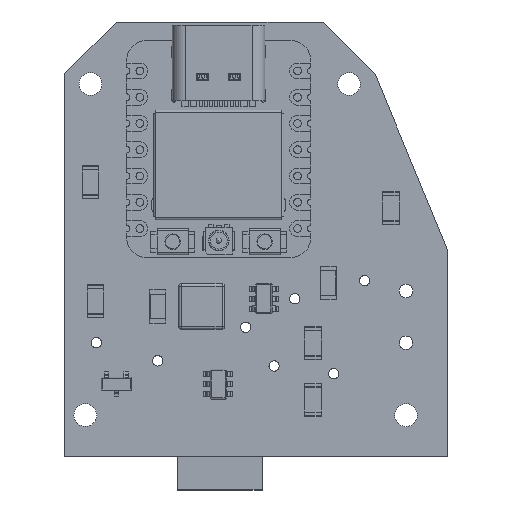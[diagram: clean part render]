
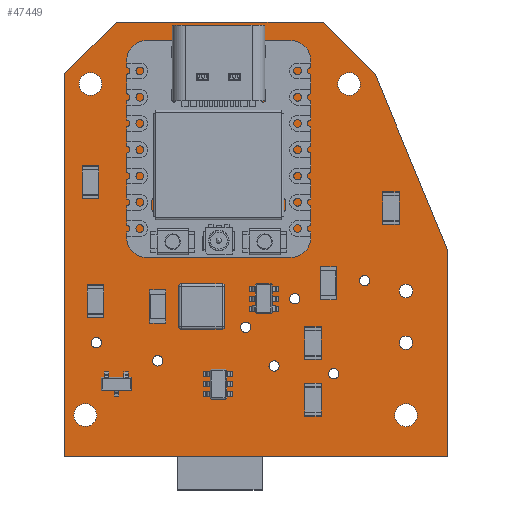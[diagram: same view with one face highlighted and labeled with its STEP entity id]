
A CAD part, top view. The second image highlights one B-rep face of the part: STEP entity #47449.
In plain terms, the highlighted planar face has unit normal (0, 0, 1).
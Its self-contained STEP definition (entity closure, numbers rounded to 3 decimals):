
#47148 = VERTEX_POINT('',#47149);
#47149 = CARTESIAN_POINT('',(11.5,16.,1.51));
#47155 = EDGE_CURVE('',#47148,#47156,#47158,.T.);
#47156 = VERTEX_POINT('',#47157);
#47157 = CARTESIAN_POINT('',(18.5,-1.,1.51));
#47158 = LINE('',#47159,#47160);
#47159 = CARTESIAN_POINT('',(11.5,16.,1.51));
#47160 = VECTOR('',#47161,1.);
#47161 = DIRECTION('',(0.381,-0.925,0.));
#47188 = VERTEX_POINT('',#47189);
#47189 = CARTESIAN_POINT('',(6.5,21.,1.51));
#47195 = EDGE_CURVE('',#47188,#47148,#47196,.T.);
#47196 = LINE('',#47197,#47198);
#47197 = CARTESIAN_POINT('',(6.5,21.,1.51));
#47198 = VECTOR('',#47199,1.);
#47199 = DIRECTION('',(0.707,-0.707,0.));
#47217 = EDGE_CURVE('',#47156,#47218,#47220,.T.);
#47218 = VERTEX_POINT('',#47219);
#47219 = CARTESIAN_POINT('',(18.5,-21.,1.51));
#47220 = LINE('',#47221,#47222);
#47221 = CARTESIAN_POINT('',(18.5,-1.,1.51));
#47222 = VECTOR('',#47223,1.);
#47223 = DIRECTION('',(0.,-1.,0.));
#47449 = ADVANCED_FACE('',(#47450,#47485,#47496,#47507,#47518,#47529,
    #47540,#47551,#47562,#47573,#47584,#47595,#47606,#47617,#47628,
    #47639),#47650,.T.);
#47450 = FACE_BOUND('',#47451,.T.);
#47451 = EDGE_LOOP('',(#47452,#47453,#47454,#47462,#47470,#47478,#47484)
  );
#47452 = ORIENTED_EDGE('',*,*,#47155,.F.);
#47453 = ORIENTED_EDGE('',*,*,#47195,.F.);
#47454 = ORIENTED_EDGE('',*,*,#47455,.F.);
#47455 = EDGE_CURVE('',#47456,#47188,#47458,.T.);
#47456 = VERTEX_POINT('',#47457);
#47457 = CARTESIAN_POINT('',(-13.5,21.,1.51));
#47458 = LINE('',#47459,#47460);
#47459 = CARTESIAN_POINT('',(-13.5,21.,1.51));
#47460 = VECTOR('',#47461,1.);
#47461 = DIRECTION('',(1.,0.,0.));
#47462 = ORIENTED_EDGE('',*,*,#47463,.F.);
#47463 = EDGE_CURVE('',#47464,#47456,#47466,.T.);
#47464 = VERTEX_POINT('',#47465);
#47465 = CARTESIAN_POINT('',(-18.5,16.,1.51));
#47466 = LINE('',#47467,#47468);
#47467 = CARTESIAN_POINT('',(-18.5,16.,1.51));
#47468 = VECTOR('',#47469,1.);
#47469 = DIRECTION('',(0.707,0.707,0.));
#47470 = ORIENTED_EDGE('',*,*,#47471,.F.);
#47471 = EDGE_CURVE('',#47472,#47464,#47474,.T.);
#47472 = VERTEX_POINT('',#47473);
#47473 = CARTESIAN_POINT('',(-18.5,-21.,1.51));
#47474 = LINE('',#47475,#47476);
#47475 = CARTESIAN_POINT('',(-18.5,-21.,1.51));
#47476 = VECTOR('',#47477,1.);
#47477 = DIRECTION('',(0.,1.,0.));
#47478 = ORIENTED_EDGE('',*,*,#47479,.F.);
#47479 = EDGE_CURVE('',#47218,#47472,#47480,.T.);
#47480 = LINE('',#47481,#47482);
#47481 = CARTESIAN_POINT('',(18.5,-21.,1.51));
#47482 = VECTOR('',#47483,1.);
#47483 = DIRECTION('',(-1.,0.,0.));
#47484 = ORIENTED_EDGE('',*,*,#47217,.F.);
#47485 = FACE_BOUND('',#47486,.T.);
#47486 = EDGE_LOOP('',(#47487));
#47487 = ORIENTED_EDGE('',*,*,#47488,.T.);
#47488 = EDGE_CURVE('',#47489,#47489,#47491,.T.);
#47489 = VERTEX_POINT('',#47490);
#47490 = CARTESIAN_POINT('',(-16.5,-18.1,1.51));
#47491 = CIRCLE('',#47492,1.1);
#47492 = AXIS2_PLACEMENT_3D('',#47493,#47494,#47495);
#47493 = CARTESIAN_POINT('',(-16.5,-17.,1.51));
#47494 = DIRECTION('',(-0.,0.,-1.));
#47495 = DIRECTION('',(-0.,-1.,0.));
#47496 = FACE_BOUND('',#47497,.T.);
#47497 = EDGE_LOOP('',(#47498));
#47498 = ORIENTED_EDGE('',*,*,#47499,.T.);
#47499 = EDGE_CURVE('',#47500,#47500,#47502,.T.);
#47500 = VERTEX_POINT('',#47501);
#47501 = CARTESIAN_POINT('',(-15.425,-10.5,1.51));
#47502 = CIRCLE('',#47503,0.5);
#47503 = AXIS2_PLACEMENT_3D('',#47504,#47505,#47506);
#47504 = CARTESIAN_POINT('',(-15.425,-10.,1.51));
#47505 = DIRECTION('',(-0.,0.,-1.));
#47506 = DIRECTION('',(-0.,-1.,0.));
#47507 = FACE_BOUND('',#47508,.T.);
#47508 = EDGE_LOOP('',(#47509));
#47509 = ORIENTED_EDGE('',*,*,#47510,.T.);
#47510 = EDGE_CURVE('',#47511,#47511,#47513,.T.);
#47511 = VERTEX_POINT('',#47512);
#47512 = CARTESIAN_POINT('',(-9.5,-12.25,1.51));
#47513 = CIRCLE('',#47514,0.5);
#47514 = AXIS2_PLACEMENT_3D('',#47515,#47516,#47517);
#47515 = CARTESIAN_POINT('',(-9.5,-11.75,1.51));
#47516 = DIRECTION('',(-0.,0.,-1.));
#47517 = DIRECTION('',(-0.,-1.,0.));
#47518 = FACE_BOUND('',#47519,.T.);
#47519 = EDGE_LOOP('',(#47520));
#47520 = ORIENTED_EDGE('',*,*,#47521,.T.);
#47521 = EDGE_CURVE('',#47522,#47522,#47524,.T.);
#47522 = VERTEX_POINT('',#47523);
#47523 = CARTESIAN_POINT('',(1.75,-12.75,1.51));
#47524 = CIRCLE('',#47525,0.5);
#47525 = AXIS2_PLACEMENT_3D('',#47526,#47527,#47528);
#47526 = CARTESIAN_POINT('',(1.75,-12.25,1.51));
#47527 = DIRECTION('',(-0.,0.,-1.));
#47528 = DIRECTION('',(-0.,-1.,0.));
#47529 = FACE_BOUND('',#47530,.T.);
#47530 = EDGE_LOOP('',(#47531));
#47531 = ORIENTED_EDGE('',*,*,#47532,.T.);
#47532 = EDGE_CURVE('',#47533,#47533,#47535,.T.);
#47533 = VERTEX_POINT('',#47534);
#47534 = CARTESIAN_POINT('',(14.5,-18.1,1.51));
#47535 = CIRCLE('',#47536,1.1);
#47536 = AXIS2_PLACEMENT_3D('',#47537,#47538,#47539);
#47537 = CARTESIAN_POINT('',(14.5,-17.,1.51));
#47538 = DIRECTION('',(-0.,0.,-1.));
#47539 = DIRECTION('',(-0.,-1.,0.));
#47540 = FACE_BOUND('',#47541,.T.);
#47541 = EDGE_LOOP('',(#47542));
#47542 = ORIENTED_EDGE('',*,*,#47543,.T.);
#47543 = EDGE_CURVE('',#47544,#47544,#47546,.T.);
#47544 = VERTEX_POINT('',#47545);
#47545 = CARTESIAN_POINT('',(7.5,-13.5,1.51));
#47546 = CIRCLE('',#47547,0.5);
#47547 = AXIS2_PLACEMENT_3D('',#47548,#47549,#47550);
#47548 = CARTESIAN_POINT('',(7.5,-13.,1.51));
#47549 = DIRECTION('',(-0.,0.,-1.));
#47550 = DIRECTION('',(-0.,-1.,0.));
#47551 = FACE_BOUND('',#47552,.T.);
#47552 = EDGE_LOOP('',(#47553));
#47553 = ORIENTED_EDGE('',*,*,#47554,.T.);
#47554 = EDGE_CURVE('',#47555,#47555,#47557,.T.);
#47555 = VERTEX_POINT('',#47556);
#47556 = CARTESIAN_POINT('',(14.5,-10.65,1.51));
#47557 = CIRCLE('',#47558,0.65);
#47558 = AXIS2_PLACEMENT_3D('',#47559,#47560,#47561);
#47559 = CARTESIAN_POINT('',(14.5,-10.,1.51));
#47560 = DIRECTION('',(-0.,0.,-1.));
#47561 = DIRECTION('',(-0.,-1.,0.));
#47562 = FACE_BOUND('',#47563,.T.);
#47563 = EDGE_LOOP('',(#47564));
#47564 = ORIENTED_EDGE('',*,*,#47565,.T.);
#47565 = EDGE_CURVE('',#47566,#47566,#47568,.T.);
#47566 = VERTEX_POINT('',#47567);
#47567 = CARTESIAN_POINT('',(-1.,-9.,1.51));
#47568 = CIRCLE('',#47569,0.5);
#47569 = AXIS2_PLACEMENT_3D('',#47570,#47571,#47572);
#47570 = CARTESIAN_POINT('',(-1.,-8.5,1.51));
#47571 = DIRECTION('',(-0.,0.,-1.));
#47572 = DIRECTION('',(-0.,-1.,0.));
#47573 = FACE_BOUND('',#47574,.T.);
#47574 = EDGE_LOOP('',(#47575));
#47575 = ORIENTED_EDGE('',*,*,#47576,.T.);
#47576 = EDGE_CURVE('',#47577,#47577,#47579,.T.);
#47577 = VERTEX_POINT('',#47578);
#47578 = CARTESIAN_POINT('',(3.75,-6.25,1.51));
#47579 = CIRCLE('',#47580,0.5);
#47580 = AXIS2_PLACEMENT_3D('',#47581,#47582,#47583);
#47581 = CARTESIAN_POINT('',(3.75,-5.75,1.51));
#47582 = DIRECTION('',(-0.,0.,-1.));
#47583 = DIRECTION('',(-0.,-1.,0.));
#47584 = FACE_BOUND('',#47585,.T.);
#47585 = EDGE_LOOP('',(#47586));
#47586 = ORIENTED_EDGE('',*,*,#47587,.T.);
#47587 = EDGE_CURVE('',#47588,#47588,#47590,.T.);
#47588 = VERTEX_POINT('',#47589);
#47589 = CARTESIAN_POINT('',(10.5,-4.5,1.51));
#47590 = CIRCLE('',#47591,0.5);
#47591 = AXIS2_PLACEMENT_3D('',#47592,#47593,#47594);
#47592 = CARTESIAN_POINT('',(10.5,-4.,1.51));
#47593 = DIRECTION('',(-0.,0.,-1.));
#47594 = DIRECTION('',(-0.,-1.,0.));
#47595 = FACE_BOUND('',#47596,.T.);
#47596 = EDGE_LOOP('',(#47597));
#47597 = ORIENTED_EDGE('',*,*,#47598,.T.);
#47598 = EDGE_CURVE('',#47599,#47599,#47601,.T.);
#47599 = VERTEX_POINT('',#47600);
#47600 = CARTESIAN_POINT('',(14.5,-5.65,1.51));
#47601 = CIRCLE('',#47602,0.65);
#47602 = AXIS2_PLACEMENT_3D('',#47603,#47604,#47605);
#47603 = CARTESIAN_POINT('',(14.5,-5.,1.51));
#47604 = DIRECTION('',(-0.,0.,-1.));
#47605 = DIRECTION('',(-0.,-1.,0.));
#47606 = FACE_BOUND('',#47607,.T.);
#47607 = EDGE_LOOP('',(#47608));
#47608 = ORIENTED_EDGE('',*,*,#47609,.T.);
#47609 = EDGE_CURVE('',#47610,#47610,#47612,.T.);
#47610 = VERTEX_POINT('',#47611);
#47611 = CARTESIAN_POINT('',(-4.5,0.5,1.51));
#47612 = CIRCLE('',#47613,0.5);
#47613 = AXIS2_PLACEMENT_3D('',#47614,#47615,#47616);
#47614 = CARTESIAN_POINT('',(-4.5,1.,1.51));
#47615 = DIRECTION('',(-0.,0.,-1.));
#47616 = DIRECTION('',(-0.,-1.,0.));
#47617 = FACE_BOUND('',#47618,.T.);
#47618 = EDGE_LOOP('',(#47619));
#47619 = ORIENTED_EDGE('',*,*,#47620,.T.);
#47620 = EDGE_CURVE('',#47621,#47621,#47623,.T.);
#47621 = VERTEX_POINT('',#47622);
#47622 = CARTESIAN_POINT('',(-3.5,4.5,1.51));
#47623 = CIRCLE('',#47624,0.5);
#47624 = AXIS2_PLACEMENT_3D('',#47625,#47626,#47627);
#47625 = CARTESIAN_POINT('',(-3.5,5.,1.51));
#47626 = DIRECTION('',(-0.,0.,-1.));
#47627 = DIRECTION('',(-0.,-1.,0.));
#47628 = FACE_BOUND('',#47629,.T.);
#47629 = EDGE_LOOP('',(#47630));
#47630 = ORIENTED_EDGE('',*,*,#47631,.T.);
#47631 = EDGE_CURVE('',#47632,#47632,#47634,.T.);
#47632 = VERTEX_POINT('',#47633);
#47633 = CARTESIAN_POINT('',(-16.,13.9,1.51));
#47634 = CIRCLE('',#47635,1.1);
#47635 = AXIS2_PLACEMENT_3D('',#47636,#47637,#47638);
#47636 = CARTESIAN_POINT('',(-16.,15.,1.51));
#47637 = DIRECTION('',(-0.,0.,-1.));
#47638 = DIRECTION('',(-0.,-1.,0.));
#47639 = FACE_BOUND('',#47640,.T.);
#47640 = EDGE_LOOP('',(#47641));
#47641 = ORIENTED_EDGE('',*,*,#47642,.T.);
#47642 = EDGE_CURVE('',#47643,#47643,#47645,.T.);
#47643 = VERTEX_POINT('',#47644);
#47644 = CARTESIAN_POINT('',(9.,13.9,1.51));
#47645 = CIRCLE('',#47646,1.1);
#47646 = AXIS2_PLACEMENT_3D('',#47647,#47648,#47649);
#47647 = CARTESIAN_POINT('',(9.,15.,1.51));
#47648 = DIRECTION('',(-0.,0.,-1.));
#47649 = DIRECTION('',(-0.,-1.,0.));
#47650 = PLANE('',#47651);
#47651 = AXIS2_PLACEMENT_3D('',#47652,#47653,#47654);
#47652 = CARTESIAN_POINT('',(0.,0.,1.51));
#47653 = DIRECTION('',(0.,0.,1.));
#47654 = DIRECTION('',(1.,0.,-0.));
